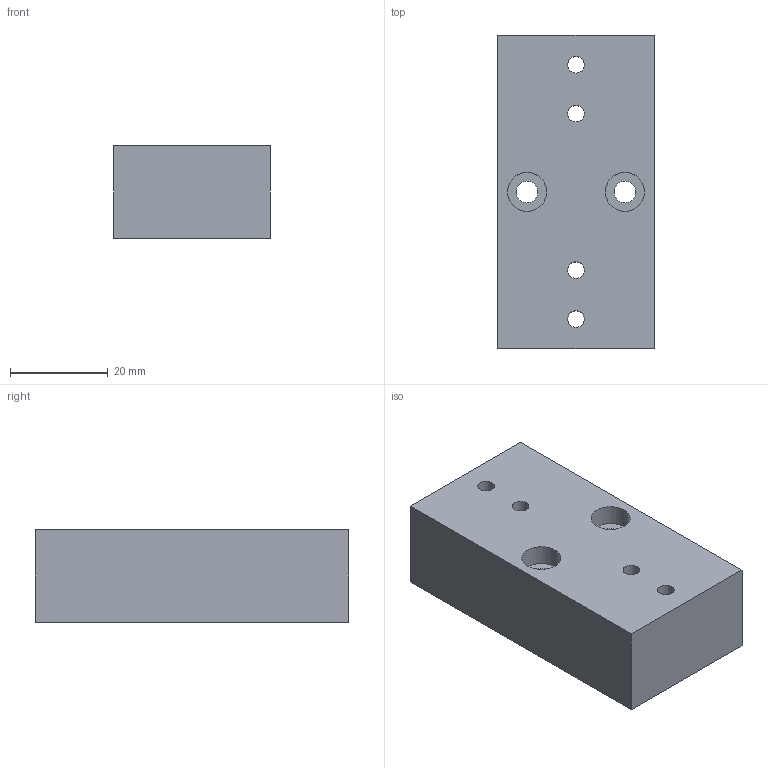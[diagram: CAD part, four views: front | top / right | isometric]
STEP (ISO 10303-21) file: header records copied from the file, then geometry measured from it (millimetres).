
FILE_DESCRIPTION(('Open CASCADE Model'),'2;1');
FILE_NAME('Open CASCADE Shape Model','2026-10-21T12:04:47',('Author'),( 'Open CASCADE'),'Open CASCADE STEP processor 7.9','Open CASCADE 7.9' ,'Unknown');
FILE_SCHEMA(('AUTOMOTIVE_DESIGN { 1 0 10303 214 1 1 1 1 }'));
Length unit declared in the file: millimetre
Products named in the file (1): Open CASCADE STEP translator 7.9 23
Bounding box: 32 x 64 x 19 mm (x, y, z)
Volume: 37349.7 mm3; surface area: 9042.6 mm2
Topology: 1 solids, 1 shells, 16 faces, 36 edges, 24 vertices
Faces by surface type: plane 8, cylinder 8
Full cylindrical faces by diameter (mm): 3.4 x4, 4.4 x2, 8 x2
Entity records: 1000 total; most frequent: CARTESIAN_POINT 233, DIRECTION 144, LINE 76, VECTOR 76, ORIENTED_EDGE 72, PCURVE 72, DEFINITIONAL_REPRESENTATION 72, EDGE_CURVE 36
